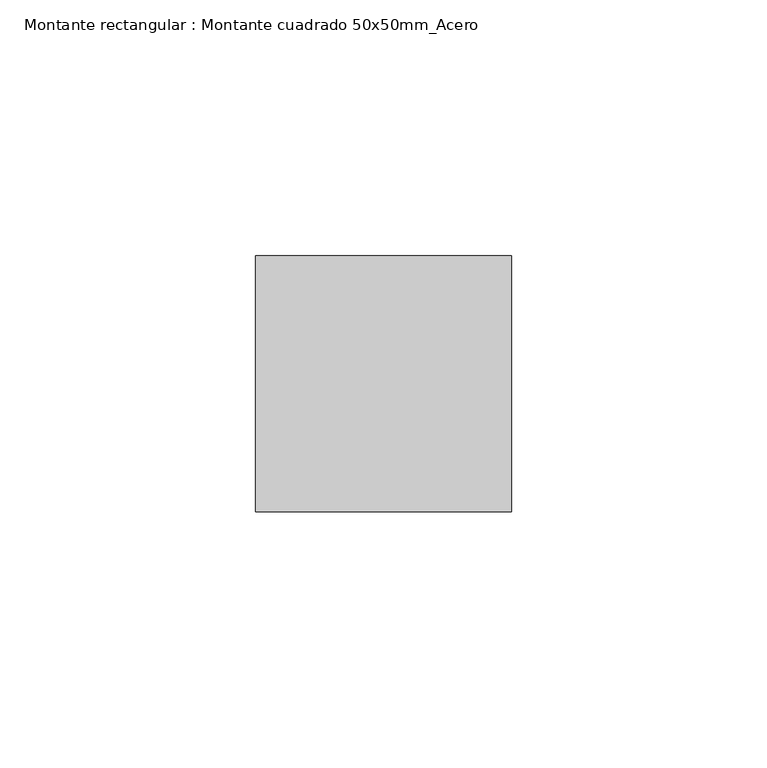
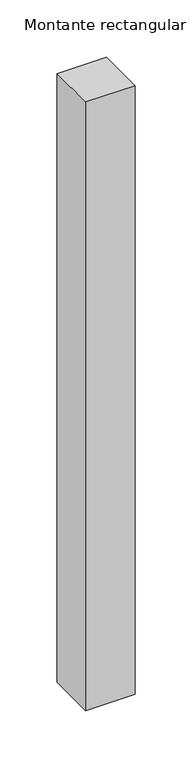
"""IFC4 building model written with IfcOpenShell, lengths in millimetres: member geometry, Montante rectangular : Montante cuadrado 50x50mm_Acero."""

from ifc_helpers import new_model, si_unit, frame, origin, place, context, project, spatial, polyline, outline, extrude, source, transform, mapped, element, save


def montante_rectangular_montante_cuadrado_50x50mm_acero_4309ca22(model_context):
    return source(origin(), model_context, "Body", "SweptSolid", [
        extrude(outline(polyline([(-50.0, 0.0), (0.0, 0.0), (0.0, -50.0), (-50.0, -50.0), (-50.0, 0.0)])), frame((0.0, 0.0, -650.0), z_axis=(0.0, 0.0, 1.0), x_axis=(1.0, 0.0, 0.0)), (0.0, 0.0, 1.0), 650.0),
    ])


if __name__ == "__main__":
    model = new_model("IFC4")
    model_context = context("Model", 3, world=origin())
    ifc_project = project(units=[si_unit("LENGTHUNIT", "METRE", prefix="MILLI")], contexts=[model_context])
    site = spatial("IfcSite", under=ifc_project)
    building = spatial("IfcBuilding", under=site)
    placement = place(None, origin())
    montante_rectangular_montante_cuadrado_50x50mm_acero_shape = montante_rectangular_montante_cuadrado_50x50mm_acero_4309ca22(model_context)
    element("IfcMember", 1, ObjectType="Montante rectangular : Montante cuadrado 50x50mm_Acero", at=placement, inside=building, context=model_context, shape_type="MappedRepresentation", body=[
        mapped(montante_rectangular_montante_cuadrado_50x50mm_acero_shape, transform((0.0, 0.0, 0.0), x_axis=(1.0, 0.0, 0.0), y_axis=(0.0, 1.0, 0.0), z_axis=(0.0, 0.0, 1.0))),
    ])
    save(model, "model.ifc")
